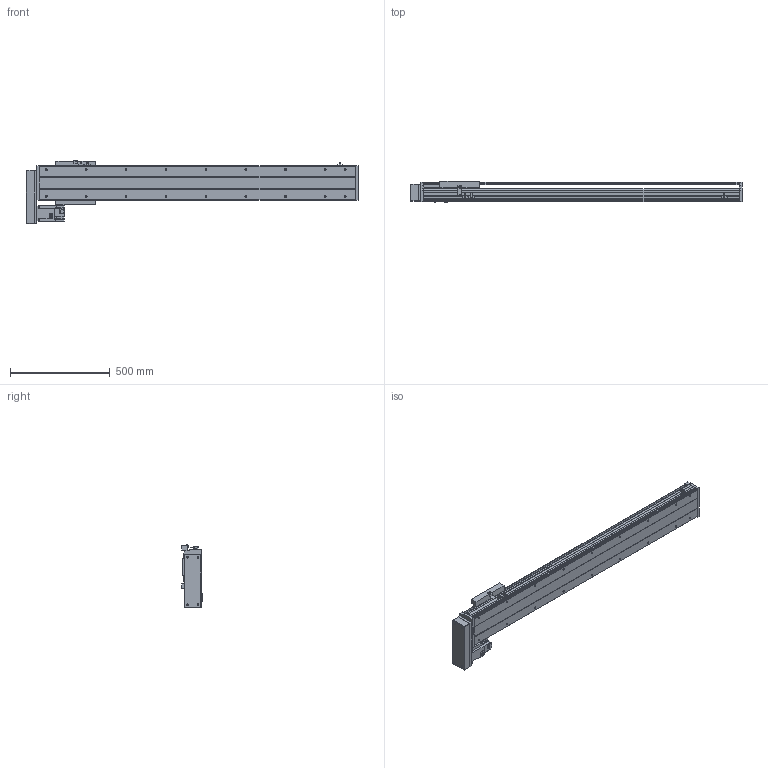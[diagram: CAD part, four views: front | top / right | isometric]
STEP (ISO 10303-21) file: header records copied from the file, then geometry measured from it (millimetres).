
FILE_DESCRIPTION( ( 'STEP AP214' ), '1' );
FILE_NAME( 'x:/temp/worker_6/temp/exporttempdir_5396_276_W0qOn/format_0/PSS200-L10-S1250-BR-T75-C1-N(0).stp', '2022-06-09T01:17:12', ( 'License CC BY-ND 4.0' ), ( 'CADENAS' ), ' ', 'PARTsolutions', ' ' );
FILE_SCHEMA( ( 'AUTOMOTIVE_DESIGN { 1 0 10303 214 1 1 1 1 }' ) );
Length unit declared in the file: millimetre
Products named in the file (8): PSS200-L10-S1250-BR-T75-C1-N(0); _PSS200-S1250-BR-C1-N_body; _PSS200-N_Q; _PSS200-BR-C1-N_sl; _PSS200-N_sensor; _PSS200BR-N_h; _T75-p1; _PSS200-S1250-BR-N_S
Assembly tree (9 placements, depth 2):
  PSS200-L10-S1250-BR-T75-C1-N(0)
    _PSS200-S1250-BR-C1-N_body
    _PSS200-N_Q
    _PSS200-BR-C1-N_sl
    _PSS200-N_sensor  x3
    _PSS200BR-N_h
    _T75-p1
    _PSS200-S1250-BR-N_S
Bounding box: 1666.85 x 105.3 x 317.86 mm (x, y, z)
Volume: 10534326.8 mm3; surface area: 2566748.8 mm2
Topology: 9 solids, 9 shells, 616 faces, 1645 edges, 1086 vertices
Faces by surface type: plane 466, cylinder 120, cone 26, sphere 4
Full cylindrical faces by diameter (mm): 4 x2, 4.5 x4, 6 x7, 6.647 x22, 7.4 x4, 8 x8, 10 x6, 25 x1, 40 x1, 67 x1
Entity records: 21490 total; most frequent: CARTESIAN_POINT 2923, DIRECTION 2832, ORIENTED_EDGE 2774, EDGE_CURVE 1387, LINE 1090, VECTOR 1090, VERTEX_POINT 962, AXIS2_PLACEMENT_3D 871
